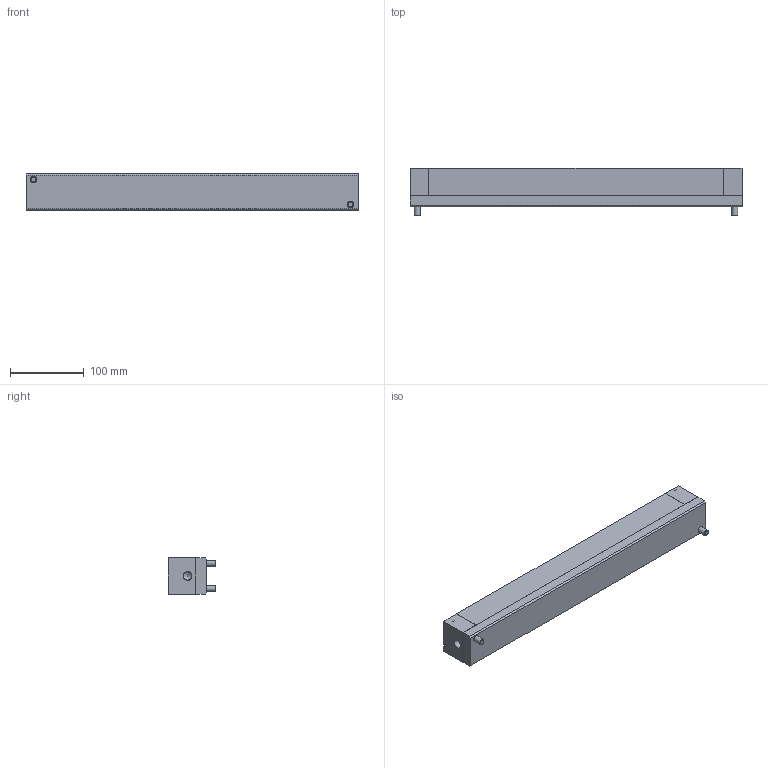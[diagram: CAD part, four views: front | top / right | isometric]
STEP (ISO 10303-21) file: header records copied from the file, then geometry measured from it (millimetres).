
FILE_DESCRIPTION( ( 'STEP AP214' ), '1' );
FILE_NAME( 'Z:/01-DesignData/標準品図面/★Web／カタログ用データ(型式別 3点Set)/069-ISR50S 系/ISR-50S-450-A_0_.stp', '2022-05-10T00:21:31', ( 'License CC BY-ND 4.0' ), ( 'CADENAS' ), ' ', 'PARTsolutions', ' ' );
FILE_SCHEMA( ( 'AUTOMOTIVE_DESIGN { 1 0 10303 214 1 1 1 1 }' ) );
Length unit declared in the file: millimetre
Products named in the file (5): ISR-50S-450-A(0); _ISR-50S-450-A-Body; _ISR-50S-450-A-Box; _ISR-50S-450-A(0)-Ball; _ISR-50S-450-A-screw
Assembly tree (12 placements, depth 2):
  ISR-50S-450-A(0)
    _ISR-50S-450-A-Body
    _ISR-50S-450-A-Box
    _ISR-50S-450-A(0)-Ball  x8
    _ISR-50S-450-A-screw  x2
Bounding box: 450 x 64 x 49.5 mm (x, y, z)
Volume: 1091636.7 mm3; surface area: 248451.5 mm2
Topology: 12 solids, 12 shells, 536 faces, 1130 edges, 698 vertices
Faces by surface type: plane 384, cylinder 84, cone 40, torus 20, sphere 8
Full cylindrical faces by diameter (mm): 8 x2, 8.5 x16, 9 x2, 9.5 x16, 13 x4, 14.5 x4, 33 x8, 38.5 x8, 39 x8, 42 x16
Entity records: 14664 total; most frequent: DIRECTION 1980, CARTESIAN_POINT 1833, ORIENTED_EDGE 1628, EDGE_CURVE 814, AXIS2_PLACEMENT_3D 714, EDGE_LOOP 606, VERTEX_POINT 567, LINE 552
